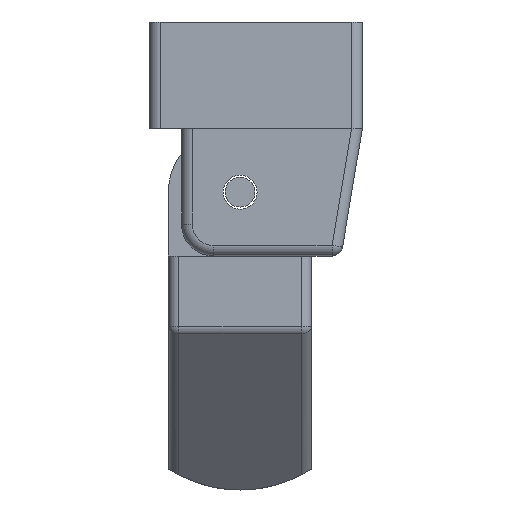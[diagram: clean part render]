
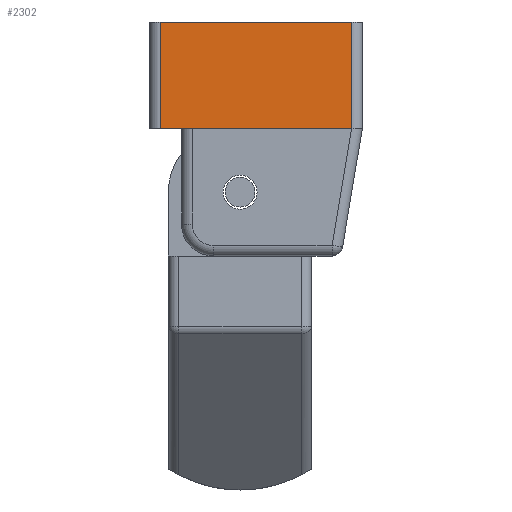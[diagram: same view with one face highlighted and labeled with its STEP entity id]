
A CAD part, left-side view. The second image highlights one B-rep face of the part: STEP entity #2302.
In plain terms, the highlighted planar face has unit normal (-1, 0, 0).
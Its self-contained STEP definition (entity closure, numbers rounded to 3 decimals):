
#141 = CARTESIAN_POINT ( 'NONE',  ( -22., -5., 10. ) ) ;
#217 = EDGE_CURVE ( 'NONE', #4223, #2894, #1902, .T. ) ;
#295 = EDGE_LOOP ( 'NONE', ( #988, #3750, #1431, #2336 ) ) ;
#317 = VERTEX_POINT ( 'NONE', #4340 ) ;
#540 = VECTOR ( 'NONE', #1150, 1000. ) ;
#832 = EDGE_CURVE ( 'NONE', #4223, #317, #1733, .T. ) ;
#901 = CARTESIAN_POINT ( 'NONE',  ( -22., 5., 10. ) ) ;
#988 = ORIENTED_EDGE ( 'NONE', *, *, #1500, .F. ) ;
#1150 = DIRECTION ( 'NONE',  ( 0., 1., 0. ) ) ;
#1431 = ORIENTED_EDGE ( 'NONE', *, *, #832, .F. ) ;
#1500 = EDGE_CURVE ( 'NONE', #2701, #2894, #2818, .T. ) ;
#1674 = CARTESIAN_POINT ( 'NONE',  ( -22., 5., -9. ) ) ;
#1733 = LINE ( 'NONE', #141, #3734 ) ;
#1902 = LINE ( 'NONE', #4588, #540 ) ;
#1968 = DIRECTION ( 'NONE',  ( 0., 0., 1. ) ) ;
#2161 = DIRECTION ( 'NONE',  ( 1., 0., 0. ) ) ;
#2302 = ADVANCED_FACE ( 'NONE', ( #4797 ), #4821, .F. ) ;
#2336 = ORIENTED_EDGE ( 'NONE', *, *, #217, .T. ) ;
#2339 = LINE ( 'NONE', #2367, #3882 ) ;
#2367 = CARTESIAN_POINT ( 'NONE',  ( -22., 0., -9. ) ) ;
#2421 = DIRECTION ( 'NONE',  ( 0., 0., -1. ) ) ;
#2701 = VERTEX_POINT ( 'NONE', #1674 ) ;
#2818 = LINE ( 'NONE', #901, #4866 ) ;
#2894 = VERTEX_POINT ( 'NONE', #4888 ) ;
#2929 = DIRECTION ( 'NONE',  ( 0., 0., -1. ) ) ;
#3734 = VECTOR ( 'NONE', #2421, 1000. ) ;
#3750 = ORIENTED_EDGE ( 'NONE', *, *, #4106, .T. ) ;
#3829 = AXIS2_PLACEMENT_3D ( 'NONE', #4471, #2161, #2929 ) ;
#3882 = VECTOR ( 'NONE', #3893, 1000. ) ;
#3893 = DIRECTION ( 'NONE',  ( 0., -1., 0. ) ) ;
#4106 = EDGE_CURVE ( 'NONE', #2701, #317, #2339, .T. ) ;
#4223 = VERTEX_POINT ( 'NONE', #4402 ) ;
#4340 = CARTESIAN_POINT ( 'NONE',  ( -22., -5., -9. ) ) ;
#4402 = CARTESIAN_POINT ( 'NONE',  ( -22., -5., 9. ) ) ;
#4471 = CARTESIAN_POINT ( 'NONE',  ( -22., 0., 0. ) ) ;
#4588 = CARTESIAN_POINT ( 'NONE',  ( -22., 0., 9. ) ) ;
#4797 = FACE_OUTER_BOUND ( 'NONE', #295, .T. ) ;
#4821 = PLANE ( 'NONE',  #3829 ) ;
#4866 = VECTOR ( 'NONE', #1968, 1000. ) ;
#4888 = CARTESIAN_POINT ( 'NONE',  ( -22., 5., 9. ) ) ;
